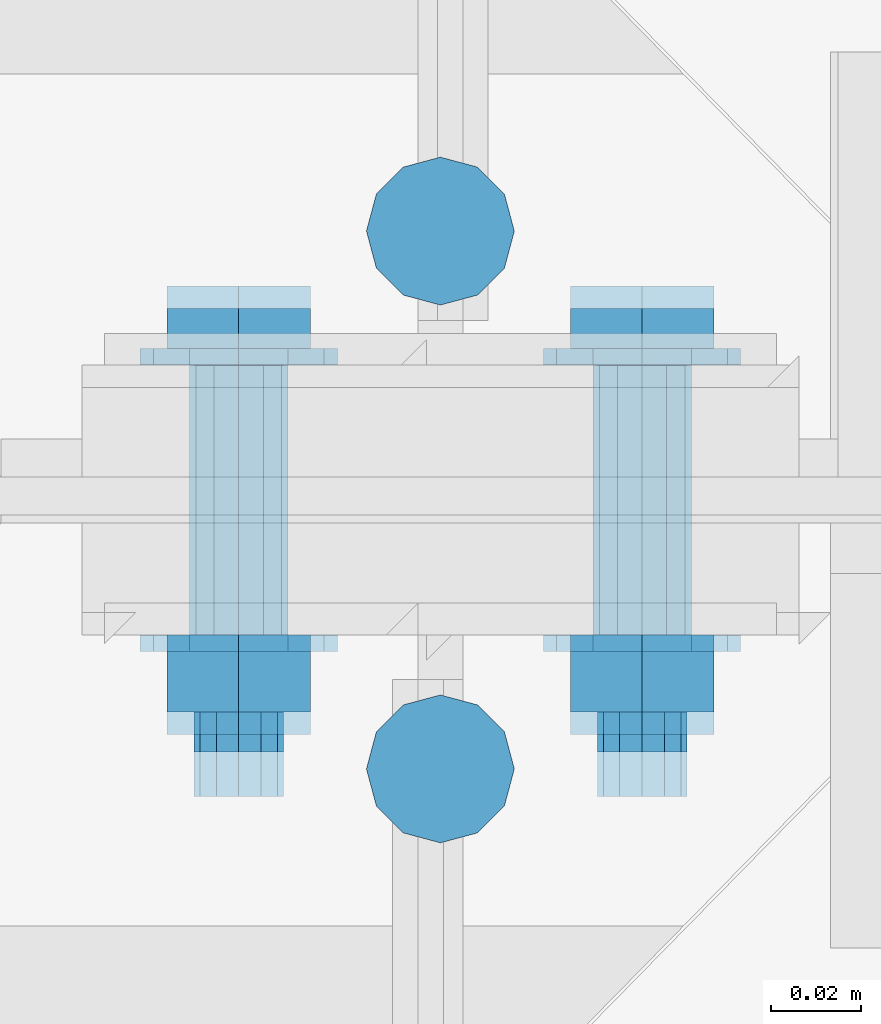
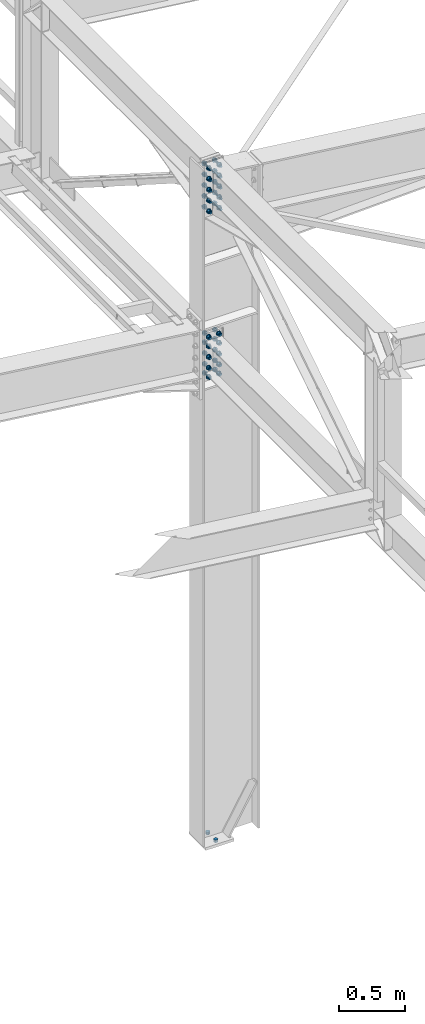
# One storey, part 249 of 3134: 3 mechanical fasteners, 2 elements without a shape of their own.
"""IFC2X3 building model written with IfcOpenShell, lengths in millimetres."""

import ifcopenshell
import ifcopenshell.guid

model = None  # the IFC model being written
_history = None  # IfcOwnerHistory: only IFC2X3 demands one
_inside = {}  # id of a spatial element -> (the spatial element, [elements in it])
_under = {}  # id of a project, library or spatial element -> (it, [spatial elements below it])
_declared = {}  # id of a project -> (the project, [libraries it declares])
_typed = {}  # id of a type object -> (the type object, [elements of that type])
_made_of = {}  # id of a material, layer set ... -> (it, [elements and type objects made of it])


def new_model(schema):
    """Start an empty IFC model of exactly this schema.

    Asked for "IFC4X3", IfcOpenShell would pick the latest addendum, in which some entities
    have other attributes; the version numbers below select the first issue.
    IFC2X3 requires an IfcOwnerHistory on every rooted entity: one is made here for all.
    """
    global model, _history
    if schema == "IFC4X3":
        model = ifcopenshell.file(schema_version=(4, 3, 0, 0))
    else:
        model = ifcopenshell.file(schema=schema)
    _inside.clear()
    _under.clear()
    _declared.clear()
    _typed.clear()
    _made_of.clear()
    _history = None
    if model.schema == "IFC2X3":
        org = make("IfcOrganization", Name="unknown")
        user = make(
            "IfcPersonAndOrganization",
            ThePerson=make("IfcPerson", FamilyName="unknown"),
            TheOrganization=org,
        )
        app = make(
            "IfcApplication",
            ApplicationDeveloper=org,
            Version="unknown",
            ApplicationFullName="unknown",
            ApplicationIdentifier="unknown",
        )
        _history = make(
            "IfcOwnerHistory",
            OwningUser=user,
            OwningApplication=app,
            ChangeAction="ADDED",
            CreationDate=0,
        )
    return model


def make(cls, **values):
    """One entity of the class cls with the attributes given. An attribute that is None is left unset."""
    return model.create_entity(
        cls, **{name: value for name, value in values.items() if value is not None}
    )


def rooted(cls, **values):
    """An entity with a GlobalId (a new one), such as an element, a storey or a relation."""
    return make(cls, GlobalId=ifcopenshell.guid.new(), OwnerHistory=_history, **values)


def si_unit(unit_type, name, prefix=None):
    """IfcSIUnit, for example si_unit("LENGTHUNIT", "METRE", prefix="MILLI")."""
    return make("IfcSIUnit", UnitType=unit_type, Prefix=prefix, Name=name)


def assignment(units):
    """IfcUnitAssignment: the units of a project."""
    return None if units is None else make("IfcUnitAssignment", Units=units)


def point(xyz):
    """IfcCartesianPoint."""
    return None if xyz is None else make("IfcCartesianPoint", Coordinates=xyz)


def direction(xyz):
    """IfcDirection."""
    return None if xyz is None else make("IfcDirection", DirectionRatios=xyz)


def frame(location, z_axis=None, x_axis=None):
    """IfcAxis2Placement3D, a coordinate frame: its origin and axes. An axis left out is left unset."""
    return make(
        "IfcAxis2Placement3D",
        Location=point(location),
        Axis=direction(z_axis),
        RefDirection=direction(x_axis),
    )


def origin_with_axes():
    """The frame at (0, 0, 0) with the z axis (0, 0, 1) and the x axis (1, 0, 0) written out."""
    return frame((0.0, 0.0, 0.0), z_axis=(0.0, 0.0, 1.0), x_axis=(1.0, 0.0, 0.0))


def place(relative_to, where):
    """IfcLocalPlacement: puts the frame where relative to a parent placement (None: the world)."""
    return make(
        "IfcLocalPlacement", PlacementRelTo=relative_to, RelativePlacement=where
    )


def context(
    kind, dimensions, precision=None, world=None, true_north=None, identifier=None
):
    """IfcGeometricRepresentationContext, for example the 3D "Model" context."""
    return make(
        "IfcGeometricRepresentationContext",
        ContextIdentifier=identifier,
        ContextType=kind,
        CoordinateSpaceDimension=dimensions,
        Precision=precision,
        WorldCoordinateSystem=world,
        TrueNorth=true_north,
    )


def subcontext(parent, identifier, kind, view, scale=None):
    """IfcGeometricRepresentationSubContext, for example "Body" below "Model"."""
    return make(
        "IfcGeometricRepresentationSubContext",
        ContextIdentifier=identifier,
        ContextType=kind,
        ParentContext=parent,
        TargetScale=scale,
        TargetView=view,
    )


def project(units=None, contexts=None):
    """IfcProject with its units and contexts."""
    return rooted(
        "IfcProject",
        Name="project",
        RepresentationContexts=contexts,
        UnitsInContext=assignment(units),
    )


def spatial(cls, under=None, at=None, **own):
    """A site, building, storey or space (cls), placed at a placement, below another one or the project."""
    s = rooted(cls, ObjectPlacement=at, **own)
    if under is not None:
        _under.setdefault(under.id(), (under, []))[1].append(s)
    return s


def faces_of(points, faces, orient=None, outer=None):
    """IfcFace entities. A face is a list of loops; a loop is a list of indices into points, from 0.

    orient and outer hold one flag for each loop. By default every Orientation is true, the
    first loop of a face is its IfcFaceOuterBound and the others are IfcFaceBound.
    """
    made = []
    for i, loops in enumerate(faces):
        bounds = []
        for j, loop in enumerate(loops):
            is_outer = j == 0 if outer is None else outer[i][j]
            bounds.append(
                make(
                    "IfcFaceOuterBound" if is_outer else "IfcFaceBound",
                    Bound=make("IfcPolyLoop", Polygon=[points[k] for k in loop]),
                    Orientation=True if orient is None else orient[i][j],
                )
            )
        made.append(make("IfcFace", Bounds=bounds))
    return made


def faceted_brep(points, faces, orient=None, outer=None, voids=None):
    """IfcFacetedBrep: a solid bounded by flat faces; with voids (closed shells), ...WithVoids."""
    shared = [point(p) for p in points]
    hull = make("IfcClosedShell", CfsFaces=faces_of(shared, faces, orient, outer))
    if voids is None:
        return make("IfcFacetedBrep", Outer=hull)
    return make(
        "IfcFacetedBrepWithVoids",
        Outer=hull,
        Voids=[
            make(cls, CfsFaces=faces_of(shared, fs, o, b)) for cls, fs, o, b in voids
        ],
    )


def shape(context_of_items, identifier, shape_type, items):
    """IfcShapeRepresentation: the items that make up one representation, for example the "Body"."""
    return make(
        "IfcShapeRepresentation",
        ContextOfItems=context_of_items,
        RepresentationIdentifier=identifier,
        RepresentationType=shape_type,
        Items=items,
    )


def source(mapping_origin, context_of_items, identifier, shape_type, items):
    """IfcRepresentationMap: a shape defined once, which mapped items show again and again."""
    return make(
        "IfcRepresentationMap",
        MappingOrigin=mapping_origin,
        MappedRepresentation=shape(context_of_items, identifier, shape_type, items),
    )


def transform(
    local_origin,
    x_axis=None,
    y_axis=None,
    z_axis=None,
    scale=None,
    scale2=None,
    scale3=None,
    uniform=True,
):
    """IfcCartesianTransformationOperator3D, or its non-uniform kind. x_axis, y_axis, z_axis: its Axis1, 2, 3."""
    if uniform:
        return make(
            "IfcCartesianTransformationOperator3D",
            Axis1=direction(x_axis),
            Axis2=direction(y_axis),
            LocalOrigin=point(local_origin),
            Scale=scale,
            Axis3=direction(z_axis),
        )
    return make(
        "IfcCartesianTransformationOperator3DnonUniform",
        Axis1=direction(x_axis),
        Axis2=direction(y_axis),
        LocalOrigin=point(local_origin),
        Scale=scale,
        Axis3=direction(z_axis),
        Scale2=scale2,
        Scale3=scale3,
    )


def mapped(mapping_source, mapping_target):
    """IfcMappedItem: shows the shape of a source again, moved by a transform."""
    return make(
        "IfcMappedItem", MappingSource=mapping_source, MappingTarget=mapping_target
    )


def material(Name=None, Category=None):
    """IfcMaterial."""
    return make("IfcMaterial", Name=Name, Category=Category)


def made_of(thing, what):
    """Note that an element or type object is made of a material, layer set ...; save() writes the relation."""
    if what is not None:
        _made_of.setdefault(what.id(), (what, []))[1].append(thing)
    return thing


def type_object(cls, material=None, **own):
    """A type object (cls), such as IfcWallType, which elements share."""
    return made_of(rooted(cls, **own), material)


def element(
    cls,
    number,
    at=None,
    inside=None,
    cuts=None,
    type_object=None,
    material=None,
    context=None,
    identifier="Body",
    shape_type=None,
    held_by="IfcProductDefinitionShape",
    body=None,
    shapes=None,
    **own,
):
    """One element of the class cls, such as IfcWall. Its Tag is "e" and its number.

    at: its placement. inside: the storey or other place that contains it. cuts: it is an
    opening in that element (IfcRelVoidsElement). A single representation is given by context,
    identifier, shape_type and body (its items); several are given by shapes. held_by: the class
    of the entity that holds the representations. save() writes the other relations.
    """
    e = rooted(cls, Tag="e%d" % number, ObjectPlacement=at, **own)
    if body is not None:
        shapes = [shape(context, identifier, shape_type, body)]
    if shapes is not None:
        e.Representation = make(held_by, Representations=shapes)
    if inside is not None:
        _inside.setdefault(inside.id(), (inside, []))[1].append(e)
    if cuts is not None:
        rooted(
            "IfcRelVoidsElement", RelatingBuildingElement=cuts, RelatedOpeningElement=e
        )
    if type_object is not None:
        _typed.setdefault(type_object.id(), (type_object, []))[1].append(e)
    return made_of(e, material)


def aggregate(whole, parts):
    """IfcRelAggregates: a whole, such as a stair, and the parts it consists of."""
    return rooted("IfcRelAggregates", RelatingObject=whole, RelatedObjects=parts)


def save(model, path):
    """Write the relations noted so far, then the file.

    IfcRelAggregates (storeys below a building ...), IfcRelContainedInSpatialStructure (elements
    in a storey), IfcRelDefinesByType, IfcRelAssociatesMaterial and IfcRelDeclares: one each for
    every whole, place, type object, material and project.
    """
    for whole, parts in _under.values():
        aggregate(whole, parts)
    for where, things in _inside.values():
        rooted(
            "IfcRelContainedInSpatialStructure",
            RelatedElements=things,
            RelatingStructure=where,
        )
    for kind, things in _typed.values():
        rooted("IfcRelDefinesByType", RelatedObjects=things, RelatingType=kind)
    for what, things in _made_of.values():
        rooted("IfcRelAssociatesMaterial", RelatedObjects=things, RelatingMaterial=what)
    for by, libraries in _declared.values():
        rooted("IfcRelDeclares", RelatingContext=by, RelatedDefinitions=libraries)
    model.write(path)


model = new_model("IFC2X3")

# Units and contexts
model_context = context("Model", 3, precision=1e-05, world=origin_with_axes())
body_context = subcontext(model_context, "Body", "Model", "MODEL_VIEW")
ifc_project = project(units=[si_unit("LENGTHUNIT", "METRE", prefix="MILLI"), si_unit("AREAUNIT", "SQUARE_METRE"), si_unit("VOLUMEUNIT", "CUBIC_METRE"), si_unit("MASSUNIT", "GRAM", prefix="KILO"), si_unit("TIMEUNIT", "SECOND"), si_unit("PLANEANGLEUNIT", "RADIAN"), si_unit("SOLIDANGLEUNIT", "STERADIAN"), si_unit("THERMODYNAMICTEMPERATUREUNIT", "DEGREE_CELSIUS"), si_unit("LUMINOUSINTENSITYUNIT", "LUMEN")], contexts=[model_context])

# Site, building, storey
site_placement = place(None, origin_with_axes())
site = spatial("IfcSite", under=ifc_project, at=site_placement, CompositionType="ELEMENT")
building_placement = place(site_placement, origin_with_axes())
building = spatial("IfcBuilding", under=site, at=building_placement, Name="Undefined", CompositionType="ELEMENT")
storey_placement = place(building_placement, origin_with_axes())
storey = spatial("IfcBuildingStorey", under=building, at=storey_placement, Name="Undefined", CompositionType="ELEMENT", Elevation=0.0)

# Assembly, mechanical fasteners
assembly_1_placement = place(storey_placement, origin_with_axes())
assembly_1 = element("IfcElementAssembly", 1, at=assembly_1_placement, inside=storey, Name="300", AssemblyPlace="NOTDEFINED", PredefinedType="RIGID_FRAME")
ifc_material_1 = material(Name="HR10.9")
mechanical_fastener_type = type_object("IfcMechanicalFastenerType", Name="Bolt assembly")
shared_shape_1 = source(origin_with_axes(), body_context, "Body", "Brep", [
    faceted_brep([(18.475208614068, -18.3999996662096, 0.0), (9.23760430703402, -18.3999996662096, 16.0), (-9.23760430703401, -18.3999996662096, 16.0), (-18.475208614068, -18.3999996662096, 2.2625605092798e-15), (-9.23760430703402, -18.3999996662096, -16.0), (9.237604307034, -18.3999996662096, -16.0), (9.237604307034, -4.50000004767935, -16.0), (-9.23760430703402, -4.50000004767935, -16.0), (-18.475208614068, -4.50000004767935, 2.2625605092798e-15), (-9.23760430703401, -4.50000004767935, 16.0), (9.23760430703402, -4.50000004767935, 16.0), (18.475208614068, -4.50000004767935, 0.0), (10.0, -4.50000004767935, 0.0), (8.66025403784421, -4.50000004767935, 5.0000000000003), (4.9999999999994, -4.50000004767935, 8.66025403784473), (-1.03633598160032e-12, -4.50000004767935, 10.0), (-5.00000000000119, -4.50000004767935, 8.6602540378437), (-8.66025403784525, -4.50000004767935, 4.99999999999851), (-10.0, -4.50000004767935, -2.07267196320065e-12), (-8.66025403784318, -4.50000004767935, -5.00000000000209), (-4.99999999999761, -4.50000004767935, -8.66025403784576), (3.09790571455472e-12, -4.50000004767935, -10.0), (5.00000000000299, -4.50000004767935, -8.66025403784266), (8.66025403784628, -4.50000004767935, -4.99999999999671), (8.66025403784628, 80.4999999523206, -4.99999999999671), (5.00000000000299, 80.4999999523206, -8.66025403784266), (3.09790571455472e-12, 80.4999999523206, -10.0), (-4.99999999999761, 80.4999999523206, -8.66025403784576), (-8.66025403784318, 80.4999999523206, -5.00000000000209), (-10.0, 80.4999999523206, -2.07267196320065e-12), (-8.66025403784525, 80.4999999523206, 4.99999999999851), (-5.00000000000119, 80.4999999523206, 8.6602540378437), (-1.03633598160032e-12, 80.4999999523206, 10.0), (4.9999999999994, 80.4999999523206, 8.66025403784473), (8.66025403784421, 80.4999999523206, 5.0000000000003), (10.0, 80.4999999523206, 0.0), (22.0, -4.50000004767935, 0.0), (19.0525588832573, -4.50000004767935, 11.0000000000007), (10.9999999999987, -4.50000004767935, 19.0525588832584), (-2.27993915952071e-12, -4.50000004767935, 22.0), (-11.0000000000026, -4.50000004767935, 19.0525588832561), (-19.0525588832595, -4.50000004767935, 10.9999999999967), (-22.0, -4.50000004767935, -4.55987831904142e-12), (-19.052558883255, -4.50000004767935, -11.0000000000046), (-10.9999999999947, -4.50000004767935, -19.0525588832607), (6.81539257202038e-12, -4.50000004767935, -22.0), (11.0000000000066, -4.50000004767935, -19.0525588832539), (19.0525588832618, -4.50000004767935, -10.9999999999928), (19.0525588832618, -0.799999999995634, -10.9999999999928), (11.0000000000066, -0.799999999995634, -19.0525588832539), (6.81539257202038e-12, -0.799999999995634, -22.0), (-10.9999999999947, -0.799999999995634, -19.0525588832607), (-19.052558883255, -0.799999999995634, -11.0000000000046), (-22.0, -0.799999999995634, -4.55987831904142e-12), (-19.0525588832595, -0.799999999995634, 10.9999999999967), (-11.0000000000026, -0.799999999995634, 19.0525588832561), (-2.27993915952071e-12, -0.799999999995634, 22.0), (10.9999999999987, -0.799999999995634, 19.0525588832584), (19.0525588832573, -0.799999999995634, 11.0000000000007), (22.0, -0.799999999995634, 0.0), (22.0, 49.4000000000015, 0.0), (19.0525588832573, 49.4000000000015, 11.0000000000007), (10.9999999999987, 49.4000000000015, 19.0525588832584), (-2.27993915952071e-12, 49.4000000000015, 22.0), (-11.0000000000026, 49.4000000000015, 19.0525588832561), (-19.0525588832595, 49.4000000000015, 10.9999999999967), (-22.0, 49.4000000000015, -4.55987831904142e-12), (-19.052558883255, 49.4000000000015, -11.0000000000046), (-10.9999999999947, 49.4000000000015, -19.0525588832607), (6.81539257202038e-12, 49.4000000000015, -22.0), (11.0000000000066, 49.4000000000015, -19.0525588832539), (19.0525588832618, 49.4000000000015, -10.9999999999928), (19.0525588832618, 53.1000000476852, -10.9999999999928), (11.0000000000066, 53.1000000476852, -19.0525588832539), (6.81539257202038e-12, 53.1000000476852, -22.0), (-10.9999999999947, 53.1000000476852, -19.0525588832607), (-19.052558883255, 53.1000000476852, -11.0000000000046), (-22.0, 53.1000000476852, -4.55987831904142e-12), (-19.0525588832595, 53.1000000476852, 10.9999999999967), (-11.0000000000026, 53.1000000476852, 19.0525588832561), (-2.27993915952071e-12, 53.1000000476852, 22.0), (10.9999999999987, 53.1000000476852, 19.0525588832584), (19.0525588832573, 53.1000000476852, 11.0000000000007), (22.0, 53.1000000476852, 0.0), (18.475208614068, 53.1000000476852, 0.0), (9.23760430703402, 53.1000000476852, 16.0), (-9.23760430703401, 53.1000000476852, 16.0), (-18.475208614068, 53.1000000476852, 2.2625605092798e-15), (-9.23760430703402, 53.1000000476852, -16.0), (9.237604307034, 53.1000000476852, -16.0), (9.237604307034, 71.6499992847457, -16.0), (-9.23760430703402, 71.6499992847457, -16.0), (-18.475208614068, 71.6499992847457, 2.2625605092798e-15), (-9.23760430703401, 71.6499992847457, 16.0), (9.23760430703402, 71.6499992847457, 16.0), (18.475208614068, 71.6499992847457, 0.0)], [[[0, 1, 2, 3, 4, 5]], [[6, 7, 8, 9, 10, 11]], [[0, 11, 10, 1]], [[1, 10, 9, 2]], [[2, 9, 8, 3]], [[3, 8, 7, 4]], [[4, 7, 6, 5]], [[5, 6, 11, 0]], [[12, 13, 14, 15, 16, 17, 18, 19, 20, 21, 22, 23]], [[24, 25, 26, 27, 28, 29, 30, 31, 32, 33, 34, 35]], [[12, 35, 34, 13]], [[13, 34, 33, 14]], [[14, 33, 32, 15]], [[15, 32, 31, 16]], [[16, 31, 30, 17]], [[17, 30, 29, 18]], [[18, 29, 28, 19]], [[19, 28, 27, 20]], [[20, 27, 26, 21]], [[21, 26, 25, 22]], [[22, 25, 24, 23]], [[23, 24, 35, 12]], [[36, 37, 38, 39, 40, 41, 42, 43, 44, 45, 46, 47]], [[48, 49, 50, 51, 52, 53, 54, 55, 56, 57, 58, 59]], [[36, 59, 58, 37]], [[37, 58, 57, 38]], [[38, 57, 56, 39]], [[39, 56, 55, 40]], [[40, 55, 54, 41]], [[41, 54, 53, 42]], [[42, 53, 52, 43]], [[43, 52, 51, 44]], [[44, 51, 50, 45]], [[45, 50, 49, 46]], [[46, 49, 48, 47]], [[47, 48, 59, 36]], [[60, 61, 62, 63, 64, 65, 66, 67, 68, 69, 70, 71]], [[72, 73, 74, 75, 76, 77, 78, 79, 80, 81, 82, 83]], [[60, 83, 82, 61]], [[61, 82, 81, 62]], [[62, 81, 80, 63]], [[63, 80, 79, 64]], [[64, 79, 78, 65]], [[65, 78, 77, 66]], [[66, 77, 76, 67]], [[67, 76, 75, 68]], [[68, 75, 74, 69]], [[69, 74, 73, 70]], [[70, 73, 72, 71]], [[71, 72, 83, 60]], [[84, 85, 86, 87, 88, 89]], [[90, 91, 92, 93, 94, 95]], [[84, 95, 94, 85]], [[85, 94, 93, 86]], [[86, 93, 92, 87]], [[87, 92, 91, 88]], [[88, 91, 90, 89]], [[89, 90, 95, 84]]]),
    faceted_brep([(11.0, 19.2000000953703, 0.0), (9.52627944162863, 19.2000000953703, 5.50000000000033), (5.49999999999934, 19.2000000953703, 9.5262794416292), (-1.13996957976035e-12, 19.2000000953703, 11.0), (-5.50000000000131, 19.2000000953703, 9.52627944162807), (-9.52627944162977, 19.2000000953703, 5.49999999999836), (-11.0, 19.2000000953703, -2.27993915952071e-12), (-9.5262794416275, 19.2000000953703, -5.5000000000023), (-5.49999999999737, 19.2000000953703, -9.52627944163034), (3.40769628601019e-12, 19.2000000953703, -11.0), (5.50000000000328, 19.2000000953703, -9.52627944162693), (9.52627944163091, 19.2000000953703, -5.49999999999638), (9.52627944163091, 29.3999999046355, -5.49999999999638), (5.50000000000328, 29.3999999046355, -9.52627944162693), (3.40769628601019e-12, 29.3999999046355, -11.0), (-5.49999999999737, 29.3999999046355, -9.52627944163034), (-9.5262794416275, 29.3999999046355, -5.5000000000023), (-11.0, 29.3999999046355, -2.27993915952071e-12), (-9.52627944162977, 29.3999999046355, 5.49999999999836), (-5.50000000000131, 29.3999999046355, 9.52627944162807), (-1.13996957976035e-12, 29.3999999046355, 11.0), (5.49999999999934, 29.3999999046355, 9.5262794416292), (9.52627944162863, 29.3999999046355, 5.50000000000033), (11.0, 29.3999999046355, 0.0), (11.0, -0.699999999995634, 0.0), (9.52627944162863, -0.699999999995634, 5.50000000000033), (5.49999999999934, -0.699999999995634, 9.5262794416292), (-1.13996957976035e-12, -0.699999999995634, 11.0), (-5.50000000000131, -0.699999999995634, 9.52627944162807), (-9.52627944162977, -0.699999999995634, 5.49999999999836), (-11.0, -0.699999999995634, -2.27993915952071e-12), (-9.5262794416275, -0.699999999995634, -5.5000000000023), (-5.49999999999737, -0.699999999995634, -9.52627944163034), (3.40769628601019e-12, -0.699999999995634, -11.0), (5.50000000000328, -0.699999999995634, -9.52627944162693), (9.52627944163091, -0.699999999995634, -5.49999999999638), (9.52627944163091, 19.3000000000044, -5.49999999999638), (5.50000000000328, 19.3000000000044, -9.52627944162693), (3.40769628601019e-12, 19.3000000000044, -11.0), (-5.49999999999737, 19.3000000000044, -9.52627944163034), (-9.5262794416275, 19.3000000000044, -5.5000000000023), (-11.0, 19.3000000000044, -2.27993915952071e-12), (-9.52627944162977, 19.3000000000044, 5.49999999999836), (-5.50000000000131, 19.3000000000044, 9.52627944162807), (-1.13996957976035e-12, 19.3000000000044, 11.0), (5.49999999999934, 19.3000000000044, 9.5262794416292), (9.52627944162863, 19.3000000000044, 5.50000000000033), (11.0, 19.3000000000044, 0.0), (11.0, 29.3000000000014, 0.0), (9.52627944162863, 29.3000000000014, 5.50000000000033), (5.49999999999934, 29.3000000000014, 9.5262794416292), (-1.13996957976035e-12, 29.3000000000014, 11.0), (-5.50000000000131, 29.3000000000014, 9.52627944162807), (-9.52627944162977, 29.3000000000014, 5.49999999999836), (-11.0, 29.3000000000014, -2.27993915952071e-12), (-9.5262794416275, 29.3000000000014, -5.5000000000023), (-5.49999999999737, 29.3000000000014, -9.52627944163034), (3.40769628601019e-12, 29.3000000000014, -11.0), (5.50000000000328, 29.3000000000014, -9.52627944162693), (9.52627944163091, 29.3000000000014, -5.49999999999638), (9.52627944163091, 49.4000000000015, -5.49999999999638), (5.50000000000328, 49.4000000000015, -9.52627944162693), (3.40769628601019e-12, 49.4000000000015, -11.0), (-5.49999999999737, 49.4000000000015, -9.52627944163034), (-9.5262794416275, 49.4000000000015, -5.5000000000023), (-11.0, 49.4000000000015, -2.27993915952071e-12), (-9.52627944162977, 49.4000000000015, 5.49999999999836), (-5.50000000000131, 49.4000000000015, 9.52627944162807), (-1.13996957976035e-12, 49.4000000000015, 11.0), (5.49999999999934, 49.4000000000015, 9.5262794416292), (9.52627944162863, 49.4000000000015, 5.50000000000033), (11.0, 49.4000000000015, 0.0)], [[[0, 1, 2, 3, 4, 5, 6, 7, 8, 9, 10, 11]], [[12, 13, 14, 15, 16, 17, 18, 19, 20, 21, 22, 23]], [[0, 23, 22, 1]], [[1, 22, 21, 2]], [[2, 21, 20, 3]], [[3, 20, 19, 4]], [[4, 19, 18, 5]], [[5, 18, 17, 6]], [[6, 17, 16, 7]], [[7, 16, 15, 8]], [[8, 15, 14, 9]], [[9, 14, 13, 10]], [[10, 13, 12, 11]], [[11, 12, 23, 0]], [[24, 25, 26, 27, 28, 29, 30, 31, 32, 33, 34, 35]], [[36, 37, 38, 39, 40, 41, 42, 43, 44, 45, 46, 47]], [[24, 47, 46, 25]], [[25, 46, 45, 26]], [[26, 45, 44, 27]], [[27, 44, 43, 28]], [[28, 43, 42, 29]], [[29, 42, 41, 30]], [[30, 41, 40, 31]], [[31, 40, 39, 32]], [[32, 39, 38, 33]], [[33, 38, 37, 34]], [[34, 37, 36, 35]], [[35, 36, 47, 24]], [[48, 49, 50, 51, 52, 53, 54, 55, 56, 57, 58, 59]], [[60, 61, 62, 63, 64, 65, 66, 67, 68, 69, 70, 71]], [[48, 71, 70, 49]], [[49, 70, 69, 50]], [[50, 69, 68, 51]], [[51, 68, 67, 52]], [[52, 67, 66, 53]], [[53, 66, 65, 54]], [[54, 65, 64, 55]], [[55, 64, 63, 56]], [[56, 63, 62, 57]], [[57, 62, 61, 58]], [[58, 61, 60, 59]], [[59, 60, 71, 48]]]),
])
mechanical_fastener_1_placement = place(assembly_1_placement, frame((32525.0, 40274.3, 4273.5), z_axis=(-1.0, 0.0, 0.0), x_axis=(0.0, 0.0, -1.0)))
mechanical_fastener_1 = element("IfcMechanicalFastener", 2, at=mechanical_fastener_1_placement, type_object=mechanical_fastener_type, material=ifc_material_1, Name="Bolt assembly", NominalDiameter=20.0, NominalLength=85.0, context=body_context, shape_type="MappedRepresentation", body=[
    mapped(shared_shape_1, transform((0.0, 0.0, -45.0))),
    mapped(shared_shape_1, transform((85.0, 0.0, -45.0))),
    mapped(shared_shape_1, transform((185.0, 0.0, -45.0))),
    mapped(shared_shape_1, transform((285.0, 0.0, -45.0))),
    mapped(shared_shape_1, transform((370.0, 0.0, -45.0))),
    mapped(shared_shape_1, transform((0.0, 0.0, 45.0))),
    mapped(shared_shape_1, transform((85.0, 0.0, 45.0))),
    mapped(shared_shape_1, transform((185.0, 0.0, 45.0))),
    mapped(shared_shape_1, transform((285.0, 0.0, 45.0))),
    mapped(shared_shape_1, transform((370.0, 0.0, 45.0))),
])
shared_shape_2 = source(origin_with_axes(), body_context, "Body", "Brep", [
    faceted_brep([(18.475208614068, -47.6999994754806, 0.0), (9.23760430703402, -47.6999994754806, 16.0), (-9.23760430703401, -47.6999994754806, 16.0), (-18.475208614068, -47.6999994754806, 2.2625605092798e-15), (-9.23760430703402, -47.6999994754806, -16.0), (9.237604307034, -47.6999994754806, -16.0), (9.237604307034, -33.7999998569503, -16.0), (-9.23760430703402, -33.7999998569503, -16.0), (-18.475208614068, -33.7999998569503, 2.2625605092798e-15), (-9.23760430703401, -33.7999998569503, 16.0), (9.23760430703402, -33.7999998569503, 16.0), (18.475208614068, -33.7999998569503, 0.0), (10.0, -33.7999998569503, 0.0), (8.66025403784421, -33.7999998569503, 5.0000000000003), (4.9999999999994, -33.7999998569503, 8.66025403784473), (-1.03633598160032e-12, -33.7999998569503, 10.0), (-5.00000000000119, -33.7999998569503, 8.6602540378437), (-8.66025403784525, -33.7999998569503, 4.99999999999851), (-10.0, -33.7999998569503, -2.07267196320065e-12), (-8.66025403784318, -33.7999998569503, -5.00000000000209), (-4.99999999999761, -33.7999998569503, -8.66025403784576), (3.09790571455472e-12, -33.7999998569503, -10.0), (5.00000000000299, -33.7999998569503, -8.66025403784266), (8.66025403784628, -33.7999998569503, -4.99999999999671), (8.66025403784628, 66.2000001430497, -4.99999999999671), (5.00000000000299, 66.2000001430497, -8.66025403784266), (3.09790571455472e-12, 66.2000001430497, -10.0), (-4.99999999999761, 66.2000001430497, -8.66025403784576), (-8.66025403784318, 66.2000001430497, -5.00000000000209), (-10.0, 66.2000001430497, -2.07267196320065e-12), (-8.66025403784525, 66.2000001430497, 4.99999999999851), (-5.00000000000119, 66.2000001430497, 8.6602540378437), (-1.03633598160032e-12, 66.2000001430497, 10.0), (4.9999999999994, 66.2000001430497, 8.66025403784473), (8.66025403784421, 66.2000001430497, 5.0000000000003), (10.0, 66.2000001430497, 0.0), (22.0, -33.7999998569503, 0.0), (19.0525588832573, -33.7999998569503, 11.0000000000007), (10.9999999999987, -33.7999998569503, 19.0525588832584), (-2.27993915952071e-12, -33.7999998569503, 22.0), (-11.0000000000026, -33.7999998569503, 19.0525588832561), (-19.0525588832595, -33.7999998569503, 10.9999999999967), (-22.0, -33.7999998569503, -4.55987831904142e-12), (-19.052558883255, -33.7999998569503, -11.0000000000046), (-10.9999999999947, -33.7999998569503, -19.0525588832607), (6.81539257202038e-12, -33.7999998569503, -22.0), (11.0000000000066, -33.7999998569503, -19.0525588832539), (19.0525588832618, -33.7999998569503, -10.9999999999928), (19.0525588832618, -30.0999998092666, -10.9999999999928), (11.0000000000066, -30.0999998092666, -19.0525588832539), (6.81539257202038e-12, -30.0999998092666, -22.0), (-10.9999999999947, -30.0999998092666, -19.0525588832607), (-19.052558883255, -30.0999998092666, -11.0000000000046), (-22.0, -30.0999998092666, -4.55987831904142e-12), (-19.0525588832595, -30.0999998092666, 10.9999999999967), (-11.0000000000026, -30.0999998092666, 19.0525588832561), (-2.27993915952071e-12, -30.0999998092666, 22.0), (10.9999999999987, -30.0999998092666, 19.0525588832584), (19.0525588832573, -30.0999998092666, 11.0000000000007), (22.0, -30.0999998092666, 0.0), (22.0, 30.0999999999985, 0.0), (19.0525588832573, 30.0999999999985, 11.0000000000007), (10.9999999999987, 30.0999999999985, 19.0525588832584), (-2.27993915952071e-12, 30.0999999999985, 22.0), (-11.0000000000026, 30.0999999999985, 19.0525588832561), (-19.0525588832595, 30.0999999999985, 10.9999999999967), (-22.0, 30.0999999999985, -4.55987831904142e-12), (-19.052558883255, 30.0999999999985, -11.0000000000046), (-10.9999999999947, 30.0999999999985, -19.0525588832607), (6.81539257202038e-12, 30.0999999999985, -22.0), (11.0000000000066, 30.0999999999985, -19.0525588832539), (19.0525588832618, 30.0999999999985, -10.9999999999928), (19.0525588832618, 33.8000000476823, -10.9999999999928), (11.0000000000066, 33.8000000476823, -19.0525588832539), (6.81539257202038e-12, 33.8000000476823, -22.0), (-10.9999999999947, 33.8000000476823, -19.0525588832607), (-19.052558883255, 33.8000000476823, -11.0000000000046), (-22.0, 33.8000000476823, -4.55987831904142e-12), (-19.0525588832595, 33.8000000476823, 10.9999999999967), (-11.0000000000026, 33.8000000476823, 19.0525588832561), (-2.27993915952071e-12, 33.8000000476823, 22.0), (10.9999999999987, 33.8000000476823, 19.0525588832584), (19.0525588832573, 33.8000000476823, 11.0000000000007), (22.0, 33.8000000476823, 0.0), (18.475208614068, 33.8000000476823, 0.0), (9.23760430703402, 33.8000000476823, 16.0), (-9.23760430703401, 33.8000000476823, 16.0), (-18.475208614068, 33.8000000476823, 2.2625605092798e-15), (-9.23760430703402, 33.8000000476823, -16.0), (9.237604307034, 33.8000000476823, -16.0), (9.237604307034, 52.3499992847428, -16.0), (-9.23760430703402, 52.3499992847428, -16.0), (-18.475208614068, 52.3499992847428, 2.2625605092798e-15), (-9.23760430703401, 52.3499992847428, 16.0), (9.23760430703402, 52.3499992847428, 16.0), (18.475208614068, 52.3499992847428, 0.0)], [[[0, 1, 2, 3, 4, 5]], [[6, 7, 8, 9, 10, 11]], [[0, 11, 10, 1]], [[1, 10, 9, 2]], [[2, 9, 8, 3]], [[3, 8, 7, 4]], [[4, 7, 6, 5]], [[5, 6, 11, 0]], [[12, 13, 14, 15, 16, 17, 18, 19, 20, 21, 22, 23]], [[24, 25, 26, 27, 28, 29, 30, 31, 32, 33, 34, 35]], [[12, 35, 34, 13]], [[13, 34, 33, 14]], [[14, 33, 32, 15]], [[15, 32, 31, 16]], [[16, 31, 30, 17]], [[17, 30, 29, 18]], [[18, 29, 28, 19]], [[19, 28, 27, 20]], [[20, 27, 26, 21]], [[21, 26, 25, 22]], [[22, 25, 24, 23]], [[23, 24, 35, 12]], [[36, 37, 38, 39, 40, 41, 42, 43, 44, 45, 46, 47]], [[48, 49, 50, 51, 52, 53, 54, 55, 56, 57, 58, 59]], [[36, 59, 58, 37]], [[37, 58, 57, 38]], [[38, 57, 56, 39]], [[39, 56, 55, 40]], [[40, 55, 54, 41]], [[41, 54, 53, 42]], [[42, 53, 52, 43]], [[43, 52, 51, 44]], [[44, 51, 50, 45]], [[45, 50, 49, 46]], [[46, 49, 48, 47]], [[47, 48, 59, 36]], [[60, 61, 62, 63, 64, 65, 66, 67, 68, 69, 70, 71]], [[72, 73, 74, 75, 76, 77, 78, 79, 80, 81, 82, 83]], [[60, 83, 82, 61]], [[61, 82, 81, 62]], [[62, 81, 80, 63]], [[63, 80, 79, 64]], [[64, 79, 78, 65]], [[65, 78, 77, 66]], [[66, 77, 76, 67]], [[67, 76, 75, 68]], [[68, 75, 74, 69]], [[69, 74, 73, 70]], [[70, 73, 72, 71]], [[71, 72, 83, 60]], [[84, 85, 86, 87, 88, 89]], [[90, 91, 92, 93, 94, 95]], [[84, 95, 94, 85]], [[85, 94, 93, 86]], [[86, 93, 92, 87]], [[87, 92, 91, 88]], [[88, 91, 90, 89]], [[89, 90, 95, 84]]]),
    faceted_brep([(11.0, -5.09999980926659, 0.0), (9.52627944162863, -5.09999980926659, 5.50000000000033), (5.49999999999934, -5.09999980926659, 9.5262794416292), (-1.13996957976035e-12, -5.09999980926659, 11.0), (-5.50000000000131, -5.09999980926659, 9.52627944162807), (-9.52627944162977, -5.09999980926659, 5.49999999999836), (-11.0, -5.09999980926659, -2.27993915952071e-12), (-9.5262794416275, -5.09999980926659, -5.5000000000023), (-5.49999999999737, -5.09999980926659, -9.52627944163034), (3.40769628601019e-12, -5.09999980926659, -11.0), (5.50000000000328, -5.09999980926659, -9.52627944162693), (9.52627944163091, -5.09999980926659, -5.49999999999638), (9.52627944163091, 5.09999999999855, -5.49999999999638), (5.50000000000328, 5.09999999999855, -9.52627944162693), (3.40769628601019e-12, 5.09999999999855, -11.0), (-5.49999999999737, 5.09999999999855, -9.52627944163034), (-9.5262794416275, 5.09999999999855, -5.5000000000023), (-11.0, 5.09999999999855, -2.27993915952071e-12), (-9.52627944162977, 5.09999999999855, 5.49999999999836), (-5.50000000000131, 5.09999999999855, 9.52627944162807), (-1.13996957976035e-12, 5.09999999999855, 11.0), (5.49999999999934, 5.09999999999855, 9.5262794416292), (9.52627944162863, 5.09999999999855, 5.50000000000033), (11.0, 5.09999999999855, 0.0), (11.0, -29.9999998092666, 0.0), (9.52627944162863, -29.9999998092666, 5.50000000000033), (5.49999999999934, -29.9999998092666, 9.5262794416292), (-1.13996957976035e-12, -29.9999998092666, 11.0), (-5.50000000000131, -29.9999998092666, 9.52627944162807), (-9.52627944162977, -29.9999998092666, 5.49999999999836), (-11.0, -29.9999998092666, -2.27993915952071e-12), (-9.5262794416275, -29.9999998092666, -5.5000000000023), (-5.49999999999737, -29.9999998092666, -9.52627944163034), (3.40769628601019e-12, -29.9999998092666, -11.0), (5.50000000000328, -29.9999998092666, -9.52627944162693), (9.52627944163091, -29.9999998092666, -5.49999999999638), (9.52627944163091, -4.99999980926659, -5.49999999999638), (5.50000000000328, -4.99999980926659, -9.52627944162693), (3.40769628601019e-12, -4.99999980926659, -11.0), (-5.49999999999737, -4.99999980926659, -9.52627944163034), (-9.5262794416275, -4.99999980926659, -5.5000000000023), (-11.0, -4.99999980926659, -2.27993915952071e-12), (-9.52627944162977, -4.99999980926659, 5.49999999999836), (-5.50000000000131, -4.99999980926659, 9.52627944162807), (-1.13996957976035e-12, -4.99999980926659, 11.0), (5.49999999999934, -4.99999980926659, 9.5262794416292), (9.52627944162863, -4.99999980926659, 5.50000000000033), (11.0, -4.99999980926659, 0.0), (11.0, 4.99999999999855, 0.0), (9.52627944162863, 4.99999999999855, 5.50000000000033), (5.49999999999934, 4.99999999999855, 9.5262794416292), (-1.13996957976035e-12, 4.99999999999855, 11.0), (-5.50000000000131, 4.99999999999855, 9.52627944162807), (-9.52627944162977, 4.99999999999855, 5.49999999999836), (-11.0, 4.99999999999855, -2.27993915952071e-12), (-9.5262794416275, 4.99999999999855, -5.5000000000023), (-5.49999999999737, 4.99999999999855, -9.52627944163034), (3.40769628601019e-12, 4.99999999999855, -11.0), (5.50000000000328, 4.99999999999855, -9.52627944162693), (9.52627944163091, 4.99999999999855, -5.49999999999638), (9.52627944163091, 30.0999999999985, -5.49999999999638), (5.50000000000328, 30.0999999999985, -9.52627944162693), (3.40769628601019e-12, 30.0999999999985, -11.0), (-5.49999999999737, 30.0999999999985, -9.52627944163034), (-9.5262794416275, 30.0999999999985, -5.5000000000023), (-11.0, 30.0999999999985, -2.27993915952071e-12), (-9.52627944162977, 30.0999999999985, 5.49999999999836), (-5.50000000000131, 30.0999999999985, 9.52627944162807), (-1.13996957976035e-12, 30.0999999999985, 11.0), (5.49999999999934, 30.0999999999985, 9.5262794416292), (9.52627944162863, 30.0999999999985, 5.50000000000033), (11.0, 30.0999999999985, 0.0)], [[[0, 1, 2, 3, 4, 5, 6, 7, 8, 9, 10, 11]], [[12, 13, 14, 15, 16, 17, 18, 19, 20, 21, 22, 23]], [[0, 23, 22, 1]], [[1, 22, 21, 2]], [[2, 21, 20, 3]], [[3, 20, 19, 4]], [[4, 19, 18, 5]], [[5, 18, 17, 6]], [[6, 17, 16, 7]], [[7, 16, 15, 8]], [[8, 15, 14, 9]], [[9, 14, 13, 10]], [[10, 13, 12, 11]], [[11, 12, 23, 0]], [[24, 25, 26, 27, 28, 29, 30, 31, 32, 33, 34, 35]], [[36, 37, 38, 39, 40, 41, 42, 43, 44, 45, 46, 47]], [[24, 47, 46, 25]], [[25, 46, 45, 26]], [[26, 45, 44, 27]], [[27, 44, 43, 28]], [[28, 43, 42, 29]], [[29, 42, 41, 30]], [[30, 41, 40, 31]], [[31, 40, 39, 32]], [[32, 39, 38, 33]], [[33, 38, 37, 34]], [[34, 37, 36, 35]], [[35, 36, 47, 24]], [[48, 49, 50, 51, 52, 53, 54, 55, 56, 57, 58, 59]], [[60, 61, 62, 63, 64, 65, 66, 67, 68, 69, 70, 71]], [[48, 71, 70, 49]], [[49, 70, 69, 50]], [[50, 69, 68, 51]], [[51, 68, 67, 52]], [[52, 67, 66, 53]], [[53, 66, 65, 54]], [[54, 65, 64, 55]], [[55, 64, 63, 56]], [[56, 63, 62, 57]], [[57, 62, 61, 58]], [[58, 61, 60, 59]], [[59, 60, 71, 48]]]),
])
mechanical_fastener_2_placement = place(assembly_1_placement, frame((32525.0, 40250.0000000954, 5841.5), z_axis=(-1.0, 0.0, 0.0), x_axis=(0.0, 0.0, -1.0)))
mechanical_fastener_2 = element("IfcMechanicalFastener", 3, at=mechanical_fastener_2_placement, type_object=mechanical_fastener_type, material=ifc_material_1, Name="Bolt assembly", NominalDiameter=20.0, NominalLength=100.0, context=body_context, shape_type="MappedRepresentation", body=[
    mapped(shared_shape_2, transform((0.0, 0.0, -45.0))),
    mapped(shared_shape_2, transform((100.0, 0.0, -45.0))),
    mapped(shared_shape_2, transform((200.0, 0.0, -45.0))),
    mapped(shared_shape_2, transform((300.0, 0.0, -45.0))),
    mapped(shared_shape_2, transform((400.0, 0.0, -45.0))),
    mapped(shared_shape_2, transform((0.0, 0.0, 45.0))),
    mapped(shared_shape_2, transform((100.0, 0.0, 45.0))),
    mapped(shared_shape_2, transform((200.0, 0.0, 45.0))),
    mapped(shared_shape_2, transform((300.0, 0.0, 45.0))),
    mapped(shared_shape_2, transform((400.0, 0.0, 45.0))),
])
aggregate(assembly_1, [mechanical_fastener_1, mechanical_fastener_2])

# Assembly, mechanical fastener
assembly_2_placement = place(storey_placement, origin_with_axes())
assembly_2 = element("IfcElementAssembly", 4, at=assembly_2_placement, inside=storey, Name="IPE500", AssemblyPlace="NOTDEFINED", PredefinedType="RIGID_FRAME")
ifc_material_2 = material(Name="8.8")
shared_shape_3 = source(origin_with_axes(), body_context, "Body", "Brep", [
    faceted_brep([(16.5, -25.0, 0.0), (14.289419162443, -25.0, 8.25000000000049), (8.24999999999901, -25.0, 14.2894191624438), (-1.70995436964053e-12, -25.0, 16.5), (-8.25000000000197, -25.0, 14.2894191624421), (-14.2894191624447, -25.0, 8.24999999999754), (-16.5, -25.0, -3.41990873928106e-12), (-14.2894191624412, -25.0, -8.25000000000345), (-8.24999999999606, -25.0, -14.2894191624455), (5.11154442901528e-12, -25.0, -16.5), (8.25000000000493, -25.0, -14.2894191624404), (14.2894191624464, -25.0, -8.24999999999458), (14.2894191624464, 0.1, -8.24999999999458), (8.25000000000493, 0.1, -14.2894191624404), (5.11154442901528e-12, 0.1, -16.5), (-8.24999999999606, 0.1, -14.2894191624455), (-14.2894191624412, 0.1, -8.25000000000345), (-16.5, 0.1, -3.41990873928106e-12), (-14.2894191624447, 0.1, 8.24999999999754), (-8.25000000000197, 0.1, 14.2894191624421), (-1.70995436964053e-12, 0.1, 16.5), (8.24999999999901, 0.1, 14.2894191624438), (14.289419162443, 0.1, 8.25000000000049), (16.5, 0.1, 0.0)], [[[0, 1, 2, 3, 4, 5, 6, 7, 8, 9, 10, 11]], [[12, 13, 14, 15, 16, 17, 18, 19, 20, 21, 22, 23]], [[0, 23, 22, 1]], [[1, 22, 21, 2]], [[2, 21, 20, 3]], [[3, 20, 19, 4]], [[4, 19, 18, 5]], [[5, 18, 17, 6]], [[6, 17, 16, 7]], [[7, 16, 15, 8]], [[8, 15, 14, 9]], [[9, 14, 13, 10]], [[10, 13, 12, 11]], [[11, 12, 23, 0]]]),
])
mechanical_fastener_3_placement = place(assembly_2_placement, frame((33005.0, 40250.0000000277, -375.0), z_axis=(0.0, 1.0, 0.0), x_axis=(-1.0, 0.0, 0.0)))
mechanical_fastener_3 = element("IfcMechanicalFastener", 5, at=mechanical_fastener_3_placement, type_object=mechanical_fastener_type, material=ifc_material_2, Name="Bolt assembly", NominalDiameter=30.0, NominalLength=25.0, context=body_context, shape_type="MappedRepresentation", body=[
    mapped(shared_shape_3, transform((480.0, 0.0, -60.0))),
    mapped(shared_shape_3, transform((480.0, 0.0, 60.0))),
])
aggregate(assembly_2, [mechanical_fastener_3])

save(model, "model.ifc")
